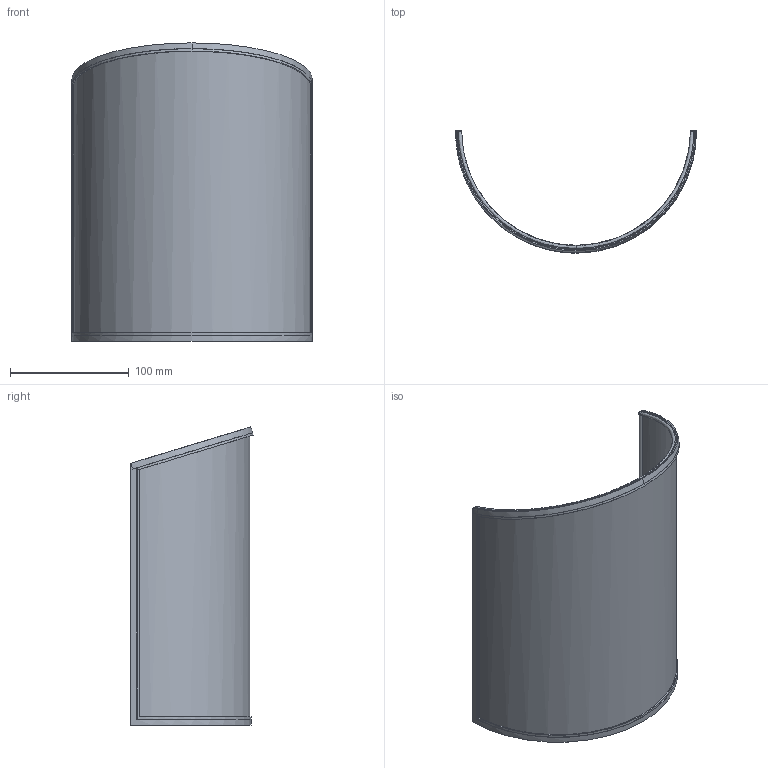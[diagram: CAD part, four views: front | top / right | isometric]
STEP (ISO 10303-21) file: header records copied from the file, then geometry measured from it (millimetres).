
FILE_DESCRIPTION(/* description */ ('Unknown'),/* implementation_level */ '2;1');
FILE_NAME(/* name */ '- Paral. RIALTO D200H250',/* time_stamp */ '2020-11-12T14:58:08+01:00',/* author */ ('Unknown'),/* organization */ ('Unknown'),/* preprocessor_version */ 'ST-DEVELOPER v16.7',/* originating_system */ 'Solid Edge',/* authorisation */ 'Unknown');
FILE_SCHEMA (('AUTOMOTIVE_DESIGN {1 0 10303 214 3 1 1}'));
Length unit declared in the file: millimetre
Products named in the file (1): - Paral. RIALTO D200H250
Bounding box: 202.2 x 102.98 x 250.61 mm (x, y, z)
Volume: 100143 mm3; surface area: 178216.2 mm2
Topology: 3 solids, 3 shells, 74 faces, 180 edges, 106 vertices
Faces by surface type: plane 38, bspline 21, cylinder 12, torus 3
Full cylindrical faces by diameter (mm): 2.977 x2
Entity records: 3602 total; most frequent: CARTESIAN_POINT 1799, ORIENTED_EDGE 328, DIRECTION 250, EDGE_CURVE 164, VERTEX_POINT 99, AXIS2_PLACEMENT_3D 92, EDGE_LOOP 77, FACE_BOUND 77
